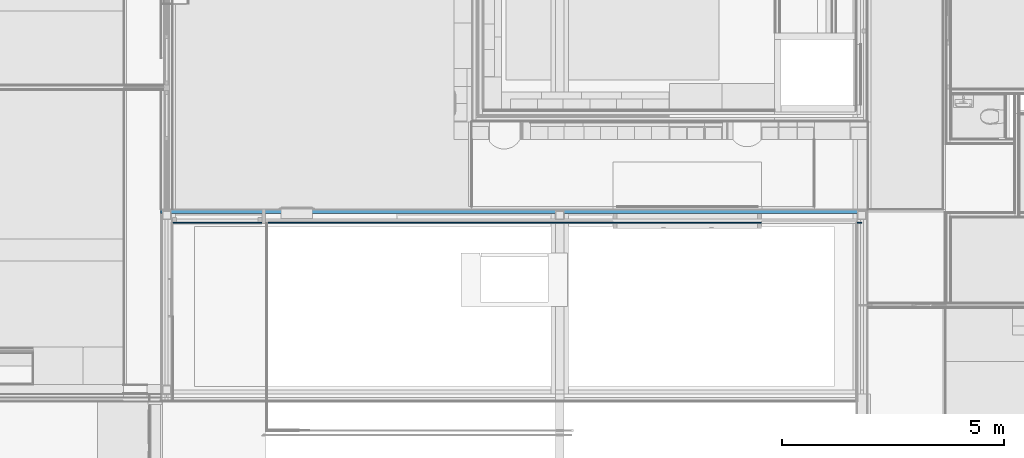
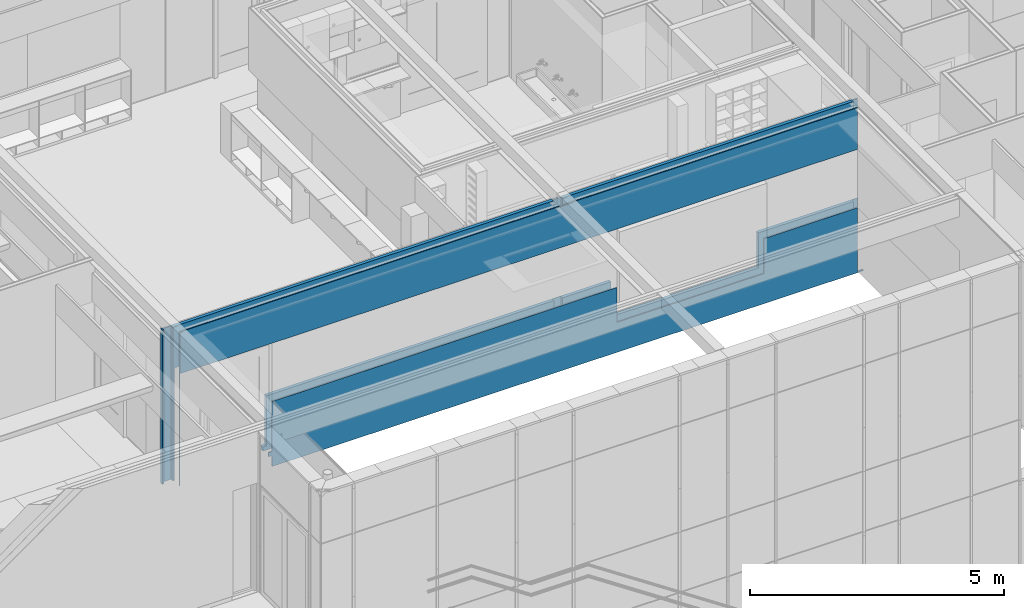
# One storey, part 68 of 137: 3 building element parts, 4 openings, 1 element without a shape of its own.
"""IFC2X3 building model written with IfcOpenShell, lengths in millimetres."""

from ifc_helpers import new_model, entity, si_unit, converted_unit, derived_unit, money_unit, direction, frame, origin_with_axes, place, context, subcontext, project, spatial, faceted_brep, material, type_object, element, aggregate, save


model = new_model("IFC2X3")

# Units and contexts
model_context = context("Model", 3, precision=0.01, world=origin_with_axes(), true_north=direction((0.0, 1.0)))
body_context = subcontext(model_context, "Body", "Model", "MODEL_VIEW")
ifc_project = project(units=[si_unit("LENGTHUNIT", "METRE", prefix="MILLI"), si_unit("AREAUNIT", "SQUARE_METRE"), si_unit("VOLUMEUNIT", "CUBIC_METRE"), converted_unit("PLANEANGLEUNIT", "DEGREE", entity("IfcPlaneAngleMeasure", 0.0174532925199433), si_unit("PLANEANGLEUNIT", "RADIAN"), dimensions=[0, 0, 0, 0, 0, 0, 0]), money_unit("EUR"), converted_unit("TIMEUNIT", "Year", entity("IfcTimeMeasure", 31556926.0), si_unit("TIMEUNIT", "SECOND"), dimensions=[0, 0, 1, 0, 0, 0, 0]), si_unit("MASSUNIT", "GRAM", prefix="KILO"), si_unit("THERMODYNAMICTEMPERATUREUNIT", "DEGREE_CELSIUS"), si_unit("LUMINOUSINTENSITYUNIT", "LUMEN"), si_unit("ENERGYUNIT", "JOULE", prefix="MEGA"), derived_unit("THERMALCONDUCTANCEUNIT", [(si_unit("POWERUNIT", "WATT"), 1), (si_unit("LENGTHUNIT", "METRE"), -1), (si_unit("THERMODYNAMICTEMPERATUREUNIT", "KELVIN"), -1)]), derived_unit("SPECIFICHEATCAPACITYUNIT", [(si_unit("ENERGYUNIT", "JOULE"), 1), (si_unit("MASSUNIT", "GRAM", prefix="KILO"), -1), (si_unit("THERMODYNAMICTEMPERATUREUNIT", "KELVIN"), -1)]), derived_unit("MASSDENSITYUNIT", [(si_unit("MASSUNIT", "GRAM", prefix="KILO"), 1), (si_unit("VOLUMEUNIT", "CUBIC_METRE"), -1)])], contexts=[model_context])

# Site, building, storey
site_placement = place(None, origin_with_axes())
site = spatial("IfcSite", under=ifc_project, at=site_placement, Name="Site", CompositionType="ELEMENT")
building_placement = place(site_placement, origin_with_axes())
building = spatial("IfcBuilding", under=site, at=building_placement, Name="Naam gebouw", CompositionType="ELEMENT")
storey_placement = place(building_placement, frame((0.0, 0.0, 3960.0), z_axis=(0.0, 0.0, 1.0), x_axis=(1.0, 0.0, 0.0)))
storey = spatial("IfcBuildingStorey", under=building, at=storey_placement, Name="1e verdieping", CompositionType="ELEMENT", Elevation=3960.0)

# Proxy, openings, building element parts
building_element_proxy_type = type_object("IfcBuildingElementProxyType", Name="22 Metal stud 325 325", PredefinedType="NOTDEFINED")
proxy_placement = place(storey_placement, frame((24499.99903999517, 10620.00011055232, -360.0000000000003), z_axis=(0.0, 0.0, 1.0), x_axis=(-1.0, 0.0, 0.0)))
proxy = element("IfcBuildingElementProxy", 1, at=proxy_placement, inside=storey, type_object=building_element_proxy_type, Name="_Wand-x")
opening_1_placement = place(proxy_placement, frame((9512.476531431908, 0.0, 1560.0), z_axis=(0.0, 0.0, 1.0), x_axis=(1.0, 0.0, 0.0)))
element("IfcOpeningElement", 2, at=opening_1_placement, cuts=proxy, Name="_A.02", context=body_context, shape_type="Brep", body=[
    faceted_brep([(-3912.476916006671, -326.0000000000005, 1400.0), (-3912.476916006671, -326.0000000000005, 0.0), (3912.476916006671, -326.0000000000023, 0.0), (3912.476916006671, -326.0000000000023, 1400.0), (-3912.476916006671, 1.000000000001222, 1400.0), (-3912.476916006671, 1.000000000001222, 0.0), (3912.476916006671, 0.9999999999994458, 0.0), (3912.476916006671, 0.9999999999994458, 1400.0)], [[[0, 1, 2, 3]], [[4, 5, 1, 0]], [[5, 6, 2, 1]], [[6, 7, 3, 2]], [[7, 4, 0, 3]], [[6, 5, 4, 7]]]),
])
opening_2_placement = place(proxy_placement, frame((1194.999807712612, 0.0, 1560.0), z_axis=(0.0, 0.0, 1.0), x_axis=(1.0, 0.0, 0.0)))
element("IfcOpeningElement", 3, at=opening_2_placement, cuts=proxy, Name="_A.01a", context=body_context, shape_type="Brep", body=[
    faceted_brep([(-1329.999807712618, -325.9999999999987, 1400.0), (-1329.999807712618, -325.9999999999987, 0.0), (1059.999807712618, -325.9999999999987, 0.0), (1059.999807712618, -325.9999999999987, 1400.0), (-1329.999807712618, -325.0000000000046, 0.0), (-1329.999807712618, -325.0000000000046, 1400.0), (-1059.169038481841, 0.9999999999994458, 0.0), (1059.999807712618, 0.9999999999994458, 0.0), (1059.999807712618, 0.9999999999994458, 1400.0), (-1059.169038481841, 0.9999999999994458, 1400.0)], [[[0, 1, 2, 3]], [[4, 1, 0, 5]], [[6, 7, 2, 1, 4]], [[7, 8, 3, 2]], [[8, 9, 5, 0, 3]], [[4, 5, 9, 6]], [[7, 6, 9, 8]]]),
])
opening_3_placement = place(proxy_placement, frame((3927.499615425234, 0.0, 720.0000000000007), z_axis=(0.0, 0.0, 1.0), x_axis=(1.0, 0.0, 0.0)))
element("IfcOpeningElement", 4, at=opening_3_placement, cuts=proxy, Name="_A.04", context=body_context, shape_type="Brep", body=[
    faceted_brep([(-1672.500000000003, -325.9999999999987, 2240.0), (-1672.500000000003, -325.9999999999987, 0.0), (1672.500000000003, -325.9999999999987, 0.0), (1672.500000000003, -325.9999999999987, 2240.0), (-1672.500000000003, 0.9999999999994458, 2240.0), (-1672.500000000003, 0.9999999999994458, 0.0), (1672.500000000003, 0.9999999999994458, 0.0), (1672.500000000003, 0.9999999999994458, 2240.0)], [[[0, 1, 2, 3]], [[4, 5, 1, 0]], [[5, 6, 2, 1]], [[6, 7, 3, 2]], [[7, 4, 0, 3]], [[6, 5, 4, 7]]]),
])
opening_4_placement = place(proxy_placement, frame((14509.95344743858, 0.0, 360.0000000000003), z_axis=(0.0, 0.0, 1.0), x_axis=(1.0, 0.0, 0.0)))
element("IfcOpeningElement", 5, at=opening_4_placement, cuts=proxy, Name="_03.05", context=body_context, shape_type="Brep", body=[
    faceted_brep([(-1005.000000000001, -326.0000000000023, 2600.0), (-1005.000000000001, -326.0000000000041, -100.0000000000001), (1005.000000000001, -326.0000000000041, -100.0000000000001), (1005.000000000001, -326.0000000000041, 2600.0), (-1005.000000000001, 1.000000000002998, 2600.0), (-1005.000000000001, 1.000000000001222, -100.0000000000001), (1005.000000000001, 1.000000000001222, -100.0000000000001), (1005.000000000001, 1.000000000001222, 2600.0)], [[[0, 1, 2, 3]], [[4, 5, 1, 0]], [[5, 6, 2, 1]], [[6, 7, 3, 2]], [[7, 4, 0, 3]], [[6, 5, 4, 7]]]),
])
ifc_material_1 = material(Name="Gipsplaat")
building_element_part_1_placement = place(proxy_placement, origin_with_axes())
building_element_part_1 = element("IfcBuildingElementPart", 6, at=building_element_part_1_placement, material=ifc_material_1, Name="Gipsplaat", context=body_context, shape_type="Brep", body=[
    faceted_brep([(13504.95344743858, -12.50000000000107, 360.0000000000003), (13424.95344743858, -12.50000000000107, 360.0000000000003), (13424.95344743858, -12.50000000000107, 1560.0), (5599.999615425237, -12.50000000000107, 1560.0), (5599.999615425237, -12.50000000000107, 720.0000000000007), (2254.99961542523, -12.50000000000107, 720.0000000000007), (2254.99961542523, -12.50000000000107, 1560.0), (134.9999999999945, -12.50000000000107, 1560.0), (134.9999999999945, -12.50000000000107, 30.00000000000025), (100.9999999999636, -12.50000000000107, 30.00000000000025), (100.9999999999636, -12.49999999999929, 0.0), (13424.95344743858, -12.50000000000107, 0.0), (13424.95344743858, -12.50000000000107, 259.9999999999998), (13504.95344743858, -12.50000000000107, 260.0000000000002), (13504.95344743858, 0.0, 360.0000000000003), (13424.95344743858, 0.0, 360.0000000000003), (13424.95344743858, 0.0, 1560.0), (5599.999615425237, 0.0, 1560.0), (5599.999615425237, 0.0, 720.0000000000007), (2254.99961542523, 0.0, 720.0000000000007), (2254.99961542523, 1.966955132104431e-05, 1560.0), (135.0000163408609, 1.966955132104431e-05, 1560.0), (134.9999999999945, 0.0, 30.00000000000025), (100.9999999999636, 0.0, 30.00000000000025), (100.9999999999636, 0.0, 0.0), (13424.95344743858, 0.0, 0.0), (13424.95344743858, 0.0, 259.9999999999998), (13504.95344743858, 0.0, 260.0000000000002)], [[[0, 1, 2, 3, 4, 5, 6, 7, 8, 9, 10, 11, 12, 13]], [[1, 0, 14, 15]], [[16, 2, 1, 15]], [[2, 16, 17, 3]], [[18, 4, 3, 17]], [[19, 5, 4, 18]], [[19, 20, 6, 5]], [[20, 21, 7, 6]], [[8, 7, 21, 22]], [[9, 8, 22, 23]], [[9, 23, 24, 10]], [[24, 25, 11, 10]], [[12, 11, 25, 26]], [[12, 26, 27, 13]], [[14, 0, 13, 27]], [[15, 14, 27, 26, 25, 24, 23, 22, 21, 20, 19, 18, 17, 16]]]),
    faceted_brep([(13424.95344743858, 0.0, 2960.000000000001), (13424.95344743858, -12.50000000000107, 2960.000000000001), (2254.99961542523, -12.50000000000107, 2960.000000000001), (2254.99961542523, 1.966955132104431e-05, 2960.000000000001), (13504.95344743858, -12.50000000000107, 2960.000000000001), (13504.95344743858, 0.0, 2960.000000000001), (15514.95344743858, -12.50000000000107, 2960.000000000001), (15514.95344743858, -12.50000000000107, 260.0000000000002), (15514.99664850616, -12.50000000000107, 259.9999999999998), (15514.99664850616, -12.50000000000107, 3943.000002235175), (15449.99908606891, -12.50000000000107, 3943.000002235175), (15449.99908606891, -12.50000000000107, 3955.000002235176), (15514.99664850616, -12.50000000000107, 3955.000002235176), (15514.99664850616, -12.50000000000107, 3960.000000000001), (6900.999615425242, -12.50000000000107, 3960.000000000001), (6900.999615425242, -12.50000000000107, 3955.000029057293), (6999.999615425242, -12.50000000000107, 3955.000029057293), (6999.999615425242, -12.50000000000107, 3940.000029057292), (6599.999615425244, -12.50000000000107, 3940.000029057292), (6599.999615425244, -12.50000000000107, 3955.000029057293), (6698.999615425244, -12.50000000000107, 3955.000029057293), (6698.999615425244, -12.50000000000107, 3960.000000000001), (134.9999999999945, -12.49999999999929, 3960.000000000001), (134.9999999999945, -12.49999999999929, 3955.000029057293), (199.9999999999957, -12.50000000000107, 3955.000029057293), (199.9999999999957, -12.50000000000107, 3945.000029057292), (134.9999999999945, -12.49999999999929, 3945.000029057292), (134.9999999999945, -12.49999999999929, 2960.000000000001), (135.0000163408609, 1.966955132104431e-05, 2960.000000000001), (134.9999999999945, 0.0, 3945.000029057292), (199.9999999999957, 0.0, 3945.000029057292), (199.9999999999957, 0.0, 3955.000029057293), (134.9999999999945, 0.0, 3955.000029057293), (134.9999999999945, 0.0, 3960.000000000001), (6698.999615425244, 0.0, 3960.000000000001), (6698.999615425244, 0.0, 3955.000029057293), (6599.999615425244, 0.0, 3955.000029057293), (6599.999615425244, 0.0, 3940.000029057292), (6999.999615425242, 0.0, 3940.000029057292), (6999.999615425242, 0.0, 3955.000029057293), (6900.999615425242, 0.0, 3955.000029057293), (6900.999615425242, 0.0, 3960.000000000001), (15514.99664850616, 0.0, 3960.000000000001), (15514.99664850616, 0.0, 3955.000002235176), (15449.99909350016, 0.0, 3955.000002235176), (15449.99909350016, 0.0, 3943.000002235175), (15514.99664850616, 0.0, 3943.000002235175), (15514.99664850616, 0.0, 259.9999999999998), (15514.95344743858, 0.0, 260.0000000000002), (15514.95344743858, 0.0, 2960.000000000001)], [[[0, 1, 2, 3]], [[4, 1, 0, 5]], [[1, 4, 6, 7, 8, 9, 10, 11, 12, 13, 14, 15, 16, 17, 18, 19, 20, 21, 22, 23, 24, 25, 26, 27, 2]], [[3, 2, 27, 28]], [[5, 0, 3, 28, 29, 30, 31, 32, 33, 34, 35, 36, 37, 38, 39, 40, 41, 42, 43, 44, 45, 46, 47, 48, 49]], [[4, 5, 49, 6]], [[49, 48, 7, 6]], [[47, 8, 7, 48]], [[9, 8, 47, 46]], [[9, 46, 45, 10]], [[10, 45, 44, 11]], [[11, 44, 43, 12]], [[43, 42, 13, 12]], [[14, 13, 42, 41]], [[14, 41, 40, 15]], [[15, 40, 39, 16]], [[16, 39, 38, 17]], [[17, 38, 37, 18]], [[18, 37, 36, 19]], [[19, 36, 35, 20]], [[21, 20, 35, 34]], [[34, 33, 22, 21]], [[23, 22, 33, 32]], [[23, 32, 31, 24]], [[24, 31, 30, 25]], [[26, 25, 30, 29]], [[29, 28, 27, 26]]]),
    faceted_brep([(6894.999615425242, -12.50000000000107, 3960.000000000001), (6894.999615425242, 0.0, 3960.000000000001), (6704.999615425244, 0.0, 3960.000000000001), (6704.999615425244, -12.50000000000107, 3960.000000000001), (6894.999615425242, -12.50000000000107, 3955.000029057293), (6894.999615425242, 0.0, 3955.000029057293), (6704.999615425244, 0.0, 3955.000029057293), (6704.999615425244, -12.50000000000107, 3955.000029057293)], [[[0, 1, 2, 3]], [[1, 0, 4, 5]], [[6, 2, 1, 5]], [[7, 3, 2, 6]], [[4, 0, 3, 7]], [[4, 7, 6, 5]]]),
    faceted_brep([(94.99999999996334, -12.49999999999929, 0.0), (94.99999999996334, -12.50000000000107, 30.00000000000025), (0.0, -12.49999999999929, 30.00000000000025), (0.0, -12.49999999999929, 0.0), (94.99999999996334, 0.0, 30.00000000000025), (94.99999999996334, 0.0, 0.0), (0.0, 0.0, 30.00000000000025), (0.0, 0.0, 0.0)], [[[0, 1, 2, 3]], [[4, 1, 0, 5]], [[1, 4, 6, 2]], [[7, 3, 2, 6]], [[5, 0, 3, 7]], [[4, 5, 7, 6]]]),
])
building_element_part_2_placement = place(proxy_placement, origin_with_axes())
building_element_part_2 = element("IfcBuildingElementPart", 7, at=building_element_part_2_placement, material=ifc_material_1, Name="Gipsplaat", context=body_context, shape_type="Brep", body=[
    faceted_brep([(13504.95344743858, -25.00000000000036, 360.0000000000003), (13424.95344743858, -25.00000000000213, 360.0000000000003), (13424.95344743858, -25.00000000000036, 1560.0), (5599.999615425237, -25.00000000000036, 1560.0), (5599.999615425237, -25.00000000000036, 720.0000000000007), (2254.99961542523, -25.00000000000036, 720.0000000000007), (2254.99961542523, -25.00000000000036, 1560.0), (122.4999999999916, -25.00000000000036, 1560.0), (122.4999999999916, -25.00000000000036, 30.00000000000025), (100.9999999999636, -25.00000000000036, 30.00000000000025), (100.9999999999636, -25.00000000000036, 0.0), (13424.95344743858, -25.00000000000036, 0.0), (13424.95344743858, -25.00000000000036, 259.9999999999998), (13504.95344743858, -25.00000000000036, 260.0000000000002), (13504.95344743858, -12.50000000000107, 360.0000000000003), (13424.95344743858, -12.50000000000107, 360.0000000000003), (13424.95344743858, -12.50000000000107, 1560.0), (5599.999615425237, -12.50000000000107, 1560.0), (5599.999615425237, -12.50000000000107, 720.0000000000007), (2254.99961542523, -12.50000000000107, 720.0000000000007), (2254.99961542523, -12.50000000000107, 1560.0), (124.6153846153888, -12.50000000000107, 1560.0), (122.4999999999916, -15.04629629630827, 1560.0), (122.4999999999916, -12.50000000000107, 1560.0), (122.4999999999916, -12.50000000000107, 30.00000000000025), (100.9999999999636, -12.50000000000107, 30.00000000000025), (100.9999999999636, -12.49999999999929, 0.0), (13424.95344743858, -12.50000000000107, 0.0), (13424.95344743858, -12.50000000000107, 259.9999999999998), (13504.95344743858, -12.50000000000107, 260.0000000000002)], [[[0, 1, 2, 3, 4, 5, 6, 7, 8, 9, 10, 11, 12, 13]], [[1, 0, 14, 15]], [[16, 2, 1, 15]], [[2, 16, 17, 3]], [[18, 4, 3, 17]], [[19, 5, 4, 18]], [[19, 20, 6, 5]], [[21, 22, 7, 6, 20]], [[8, 7, 22, 23, 24]], [[9, 8, 24, 25]], [[9, 25, 26, 10]], [[26, 27, 11, 10]], [[12, 11, 27, 28]], [[12, 28, 29, 13]], [[14, 0, 13, 29]], [[15, 14, 29, 28, 27, 26, 25, 24, 23, 21, 20, 19, 18, 17, 16]], [[23, 22, 21]]]),
    faceted_brep([(13424.95344743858, -12.50000000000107, 2960.000000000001), (13424.95344743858, -25.00000000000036, 2960.000000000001), (2254.99961542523, -25.00000000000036, 2960.000000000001), (2254.99961542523, -12.50000000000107, 2960.000000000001), (13504.95344743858, -25.00000000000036, 2960.000000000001), (13504.95344743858, -12.50000000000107, 2960.000000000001), (15514.95344743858, -25.00000000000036, 2960.000000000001), (15514.95344743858, -25.00000000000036, 260.0000000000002), (15527.49664850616, -25.00000000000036, 259.9999999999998), (15527.49664850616, -25.00000000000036, 3943.000002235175), (15449.99907863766, -25.00000000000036, 3943.000002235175), (15449.99907863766, -25.00000000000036, 3955.000002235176), (15527.49664850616, -25.00000000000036, 3955.000002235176), (15527.49664850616, -25.00000000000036, 3960.000000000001), (6900.999615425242, -25.00000000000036, 3960.000000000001), (6900.999615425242, -25.00000000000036, 3955.000029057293), (6999.999615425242, -25.00000000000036, 3955.000029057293), (6999.999615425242, -25.00000000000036, 3940.000029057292), (6599.999615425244, -25.00000000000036, 3940.000029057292), (6599.999615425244, -25.00000000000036, 3955.000029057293), (6698.999615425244, -25.00000000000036, 3955.000029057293), (6698.999615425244, -25.00000000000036, 3960.000000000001), (122.4999999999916, -25.00000000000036, 3960.000000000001), (122.4999999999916, -25.00000000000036, 3955.000029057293), (199.9999999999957, -25.00000000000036, 3955.000029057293), (199.9999999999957, -25.00000000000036, 3945.000029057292), (122.4999999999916, -25.00000000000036, 3945.000029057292), (122.4999999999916, -25.00000000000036, 2960.000000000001), (122.4999999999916, -15.04629629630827, 2960.000000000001), (124.6153846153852, -12.50000000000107, 2960.000000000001), (122.4999999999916, -12.49999999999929, 2960.000000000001), (122.4999999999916, -12.49999999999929, 3945.000029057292), (199.9999999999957, -12.50000000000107, 3945.000029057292), (199.9999999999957, -12.50000000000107, 3955.000029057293), (122.4999999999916, -12.49999999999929, 3955.000029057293), (122.4999999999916, -12.49999999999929, 3960.000000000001), (6698.999615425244, -12.50000000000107, 3960.000000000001), (6698.999615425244, -12.50000000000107, 3955.000029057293), (6599.999615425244, -12.50000000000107, 3955.000029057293), (6599.999615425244, -12.50000000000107, 3940.000029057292), (6999.999615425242, -12.50000000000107, 3940.000029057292), (6999.999615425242, -12.50000000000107, 3955.000029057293), (6900.999615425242, -12.50000000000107, 3955.000029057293), (6900.999615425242, -12.50000000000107, 3960.000000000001), (15527.49664850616, -12.50000000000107, 3960.000000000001), (15527.49664850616, -12.50000000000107, 3955.000002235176), (15449.99908606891, -12.50000000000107, 3955.000002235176), (15449.99908606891, -12.50000000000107, 3943.000002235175), (15527.49664850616, -12.50000000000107, 3943.000002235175), (15527.49664850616, -12.50000000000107, 259.9999999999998), (15514.95344743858, -12.50000000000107, 260.0000000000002), (15514.95344743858, -12.50000000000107, 2960.000000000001)], [[[0, 1, 2, 3]], [[4, 1, 0, 5]], [[1, 4, 6, 7, 8, 9, 10, 11, 12, 13, 14, 15, 16, 17, 18, 19, 20, 21, 22, 23, 24, 25, 26, 27, 2]], [[3, 2, 27, 28, 29]], [[5, 0, 3, 29, 30, 31, 32, 33, 34, 35, 36, 37, 38, 39, 40, 41, 42, 43, 44, 45, 46, 47, 48, 49, 50, 51]], [[4, 5, 51, 6]], [[51, 50, 7, 6]], [[49, 8, 7, 50]], [[9, 8, 49, 48]], [[9, 48, 47, 10]], [[10, 47, 46, 11]], [[11, 46, 45, 12]], [[45, 44, 13, 12]], [[14, 13, 44, 43]], [[14, 43, 42, 15]], [[15, 42, 41, 16]], [[16, 41, 40, 17]], [[17, 40, 39, 18]], [[18, 39, 38, 19]], [[19, 38, 37, 20]], [[21, 20, 37, 36]], [[36, 35, 22, 21]], [[23, 22, 35, 34]], [[23, 34, 33, 24]], [[24, 33, 32, 25]], [[26, 25, 32, 31]], [[30, 28, 27, 26, 31]], [[30, 29, 28]]]),
    faceted_brep([(6894.999615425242, -25.00000000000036, 3960.000000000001), (6894.999615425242, -12.50000000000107, 3960.000000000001), (6704.999615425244, -12.50000000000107, 3960.000000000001), (6704.999615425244, -25.00000000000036, 3960.000000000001), (6894.999615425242, -25.00000000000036, 3955.000029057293), (6894.999615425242, -12.50000000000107, 3955.000029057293), (6704.999615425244, -12.50000000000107, 3955.000029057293), (6704.999615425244, -25.00000000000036, 3955.000029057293)], [[[0, 1, 2, 3]], [[1, 0, 4, 5]], [[6, 2, 1, 5]], [[7, 3, 2, 6]], [[4, 0, 3, 7]], [[4, 7, 6, 5]]]),
    faceted_brep([(94.99999999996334, -25.00000000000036, 0.0), (94.99999999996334, -25.00000000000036, 30.00000000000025), (0.0, -24.99999999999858, 30.00000000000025), (0.0, -25.00000000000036, 0.0), (94.99999999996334, -12.50000000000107, 30.00000000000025), (94.99999999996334, -12.49999999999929, 0.0), (0.0, -12.50000000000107, 30.00000000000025), (0.0, -12.49999999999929, 0.0)], [[[0, 1, 2, 3]], [[4, 1, 0, 5]], [[1, 4, 6, 2]], [[7, 3, 2, 6]], [[5, 0, 3, 7]], [[4, 5, 7, 6]]]),
])
ifc_material_2 = material(Name="ALG - LICHTE SCHEIDINGSWAND")
building_element_part_3_placement = place(proxy_placement, origin_with_axes())
building_element_part_3 = element("IfcBuildingElementPart", 8, at=building_element_part_3_placement, material=ifc_material_2, Name="ALG - LICHTE SCHEIDINGSWAND", context=body_context, shape_type="Brep", body=[
    faceted_brep([(13504.95344743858, -300.0000000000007, 360.0000000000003), (13424.95344743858, -300.0000000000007, 360.0000000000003), (13424.95344743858, -300.0000000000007, 1560.0), (5599.999615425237, -299.9999999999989, 1560.0), (5599.999615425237, -299.9999999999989, 720.0000000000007), (2254.99961542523, -299.9999999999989, 720.0000000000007), (2254.99961542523, -299.9999999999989, 1560.0), (-35.00000017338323, -299.9999999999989, 1560.0), (-35.00000002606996, -299.9999999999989, 260.0000022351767), (13504.95344743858, -300.0000000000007, 260.0000000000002), (13504.95344743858, -224.999997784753, 360.0000000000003), (13424.95344743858, -224.9999978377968, 360.0000000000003), (13424.95344743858, -224.9999984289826, 1560.0), (6899.99961542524, -224.9999978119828, 1560.0), (6899.99961542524, -290.0000000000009, 1560.0), (6699.999615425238, -290.0000000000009, 1560.0), (6699.999615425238, -224.999997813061, 1560.0), (5599.999615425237, -224.9999978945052, 1560.0), (5599.999615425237, -224.9999978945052, 720.0000000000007), (2254.99961542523, -224.9999978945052, 720.0000000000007), (2254.99961542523, -224.9999978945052, 1560.0), (99.99999999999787, -290.0000000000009, 1560.0), (-35.00000017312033, -290.0000000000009, 1560.0), (99.99999999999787, -224.9999981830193, 1560.0), (-35.00000002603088, -290.0000000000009, 260.0000000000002), (12949.99903999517, -290.0000000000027, 259.9999999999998), (12949.99903999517, -224.9999977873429, 260.0000003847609), (13504.95344743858, -224.9999977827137, 260.0000000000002), (99.99999999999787, -290.0000000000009, 260.0000000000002), (99.99999999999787, -224.9999978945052, 260.0000000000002), (6699.999615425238, -224.9999978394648, 260.0000000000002), (6699.999615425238, -290.0000000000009, 260.0000000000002), (6899.99961542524, -290.0000000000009, 260.0000000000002), (6899.99961542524, -224.9999978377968, 260.0000000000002), (12853.99903999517, -224.9999977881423, 260.000000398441), (12853.99903999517, -290.0000000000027, 259.9999999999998), (12861.99903999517, -290.0000000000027, 259.9999999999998), (12861.99903999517, -242.5000000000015, 259.9999999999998), (12941.99903999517, -242.5000000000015, 259.9999999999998), (12941.99903999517, -290.0000000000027, 259.9999999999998), (12949.99903999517, -224.9999977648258, 275.0000000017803), (12941.99903999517, -224.9999977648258, 275.0000000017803), (12941.99903999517, -224.9999977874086, 260.0000003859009), (12861.99903999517, -224.9999977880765, 260.0000003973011), (12861.99903999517, -224.9999977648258, 275.0000000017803), (12853.99903999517, -224.9999977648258, 275.0000000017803), (12949.99903999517, -290.0000000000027, 275.0000000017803), (12853.99903999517, -290.0000000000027, 275.0000000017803), (12861.99903999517, -290.0000000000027, 275.0000000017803), (12861.99903999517, -242.5000000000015, 275.0000000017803), (12941.99903999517, -242.5000000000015, 275.0000000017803), (12941.99903999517, -290.0000000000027, 275.0000000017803), (12861.99903999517, -237.5000000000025, 275.0000000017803), (12941.99903999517, -237.5000000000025, 275.0000000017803), (12941.99903999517, -237.5000000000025, 259.9999999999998), (12861.99903999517, -237.5000000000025, 259.9999999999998)], [[[0, 1, 2, 3, 4, 5, 6, 7, 8, 9]], [[1, 0, 10, 11]], [[12, 2, 1, 11]], [[2, 12, 13, 14, 15, 16, 17, 3]], [[18, 4, 3, 17]], [[19, 5, 4, 18]], [[19, 20, 6, 5]], [[21, 22, 7, 6, 20, 23]], [[8, 7, 22, 24]], [[25, 26, 27, 9, 8, 24, 28, 29, 30, 31, 32, 33, 34, 35, 36, 37, 38, 39]], [[10, 0, 9, 27]], [[11, 10, 27, 26, 40, 41, 42, 43, 44, 45, 34, 33, 13, 12]], [[14, 13, 33, 32]], [[15, 14, 32, 31]], [[16, 15, 31, 30]], [[29, 23, 20, 19, 18, 17, 16, 30]], [[24, 22, 21, 28]], [[28, 21, 23, 29]], [[25, 46, 40, 26]], [[34, 45, 47, 35]], [[35, 47, 48, 36]], [[36, 48, 49, 37]], [[37, 49, 50, 38]], [[38, 50, 51, 39]], [[39, 51, 46, 25]], [[44, 52, 53, 41, 40, 46, 51, 50, 49, 48, 47, 45]], [[42, 41, 53, 54]], [[43, 42, 54, 55]], [[55, 52, 44, 43]], [[54, 53, 52, 55]]]),
    faceted_brep([(13424.95344743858, -224.9999984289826, 2960.000000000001), (13424.95344743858, -299.9999999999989, 2960.000000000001), (2254.99961542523, -299.9999999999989, 2960.000000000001), (2254.99961542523, -224.9999978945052, 2960.000000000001), (6699.999615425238, -224.9999977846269, 2960.000000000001), (6699.999615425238, -290.0000000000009, 2960.000000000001), (6899.99961542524, -290.0000000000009, 2960.000000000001), (6899.99961542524, -224.9999977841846, 2960.000000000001), (13504.95344743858, -299.9999999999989, 2960.000000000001), (13504.95344743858, -224.9999978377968, 2960.000000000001), (15514.95344743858, -299.9999999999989, 2960.000000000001), (15514.95344743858, -300.0000000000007, 260.0000000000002), (15784.99664850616, -300.0000000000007, 259.9999999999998), (15784.99664850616, -300.0000000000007, 3943.000002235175), (15449.99891515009, -300.0000000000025, 3943.000002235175), (15449.99891515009, -300.0000000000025, 3955.000002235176), (15548.99891515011, -299.9999999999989, 3955.000002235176), (15548.99891515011, -300.0000000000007, 3960.000000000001), (6900.999615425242, -299.9999999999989, 3960.000000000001), (6900.999615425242, -299.9999999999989, 3955.000029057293), (6999.999615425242, -299.9999999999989, 3955.000029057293), (6999.999615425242, -299.9999999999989, 3935.000029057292), (6599.999615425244, -299.9999999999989, 3935.000029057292), (6599.999615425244, -299.9999999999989, 3955.000029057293), (6698.999615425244, -299.9999999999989, 3955.000029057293), (6698.999615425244, -299.9999999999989, 3960.000000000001), (100.9999999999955, -299.9999999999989, 3960.000000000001), (100.9999999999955, -299.9999999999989, 3955.000029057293), (199.9999999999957, -299.9999999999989, 3955.000029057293), (199.9999999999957, -299.9999999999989, 3945.000029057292), (-35.00000044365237, -299.9999999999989, 3945.000029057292), (-35.00000033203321, -299.9999999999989, 2960.000000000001), (-35.00000033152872, -290.0000000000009, 2960.000000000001), (99.99999999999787, -290.0000000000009, 2960.000000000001), (99.99999999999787, -224.9999984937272, 2960.000000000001), (99.99999999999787, -224.9999987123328, 3945.000029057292), (199.9999999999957, -224.9999977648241, 3945.000029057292), (199.9999999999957, -224.9999977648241, 3955.000029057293), (100.9999999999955, -224.9999977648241, 3955.000029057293), (100.9999999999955, -224.9999999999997, 3960.000000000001), (6698.999615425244, -224.9999999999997, 3960.000000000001), (6698.999615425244, -224.9999977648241, 3955.000029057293), (6599.999615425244, -224.9999977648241, 3955.000029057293), (6599.999615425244, -224.9999977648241, 3935.000029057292), (6699.999615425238, -224.9999977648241, 3935.000029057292), (6699.999615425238, -290.0000000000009, 3935.000029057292), (6899.99961542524, -290.0000000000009, 3935.000029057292), (6899.99961542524, -224.9999977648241, 3935.000029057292), (6999.999615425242, -224.9999977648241, 3935.000029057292), (6999.999615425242, -224.9999977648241, 3955.000029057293), (6900.999615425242, -224.9999977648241, 3955.000029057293), (6900.999615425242, -224.9999999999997, 3960.000000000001), (15548.99895973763, -225.0000000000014, 3960.000000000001), (15548.99895973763, -224.9999977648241, 3955.000002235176), (15449.99895973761, -224.9999977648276, 3955.000002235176), (15449.99895973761, -224.9999977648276, 3943.000002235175), (15549.99903999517, -224.9999984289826, 3943.000002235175), (15549.99903999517, -224.9999977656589, 260.0000000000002), (15514.95344743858, -224.999997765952, 260.0000000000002), (15514.95344743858, -224.9999978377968, 2960.000000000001), (15784.99664850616, -224.9999977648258, 259.9999999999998), (15549.99903999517, -290.0000000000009, 260.0000000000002), (15749.99903999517, -290.0000000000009, 260.0000000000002), (15749.99903999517, -224.9999977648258, 260.0000000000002), (15784.99664850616, -224.9999999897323, 3943.000002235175), (15749.99903999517, -224.9999997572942, 3943.000002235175), (15749.99903999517, -290.0000000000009, 3943.000002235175), (15549.99903999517, -290.0000000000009, 3943.000002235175), (99.99999999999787, -290.0000000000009, 3945.000029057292), (-35.00000044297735, -290.0000000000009, 3945.000029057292)], [[[0, 1, 2, 3, 4, 5, 6, 7]], [[8, 1, 0, 9]], [[1, 8, 10, 11, 12, 13, 14, 15, 16, 17, 18, 19, 20, 21, 22, 23, 24, 25, 26, 27, 28, 29, 30, 31, 2]], [[3, 2, 31, 32, 33, 34]], [[4, 3, 34, 35, 36, 37, 38, 39, 40, 41, 42, 43, 44]], [[5, 4, 44, 45]], [[6, 5, 45, 46]], [[7, 6, 46, 47]], [[9, 0, 7, 47, 48, 49, 50, 51, 52, 53, 54, 55, 56, 57, 58, 59]], [[8, 9, 59, 10]], [[59, 58, 11, 10]], [[60, 12, 11, 58, 57, 61, 62, 63]], [[64, 13, 12, 60]], [[14, 13, 64, 65, 66, 67, 56, 55]], [[15, 14, 55, 54]], [[16, 15, 54, 53]], [[52, 17, 16, 53]], [[17, 52, 51, 18]], [[19, 18, 51, 50]], [[20, 19, 50, 49]], [[21, 20, 49, 48]], [[22, 21, 48, 47, 46, 45, 44, 43]], [[23, 22, 43, 42]], [[24, 23, 42, 41]], [[40, 25, 24, 41]], [[39, 26, 25, 40]], [[27, 26, 39, 38]], [[28, 27, 38, 37]], [[29, 28, 37, 36]], [[68, 69, 30, 29, 36, 35]], [[69, 32, 31, 30]], [[68, 33, 32, 69]], [[35, 34, 33, 68]], [[67, 61, 57, 56]], [[66, 62, 61, 67]], [[65, 63, 62, 66]], [[65, 64, 60, 63]]]),
    faceted_brep([(6894.999615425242, -290.0000000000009, 3959.999999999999), (6704.999615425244, -290.0000000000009, 3959.999999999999), (6704.999615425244, -299.9999999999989, 3960.000000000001), (6894.999615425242, -299.9999999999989, 3960.000000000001), (6704.999615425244, -290.0000000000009, 3955.000029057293), (6894.999615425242, -290.0000000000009, 3955.000029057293), (6704.999615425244, -299.9999999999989, 3955.000029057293), (6894.999615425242, -299.9999999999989, 3955.000029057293)], [[[0, 1, 2, 3]], [[4, 1, 0, 5]], [[1, 4, 6, 2]], [[6, 7, 3, 2]], [[5, 0, 3, 7]], [[4, 5, 7, 6]]]),
    faceted_brep([(94.99999999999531, -290.0000000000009, 3959.999999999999), (-35.00000044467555, -290.0000000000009, 3959.999999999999), (-35.00000044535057, -299.9999999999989, 3960.000000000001), (94.99999999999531, -299.9999999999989, 3960.000000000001), (-35.00000044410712, -290.0000000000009, 3955.000029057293), (94.99999999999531, -290.0000000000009, 3955.000029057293), (-35.00000044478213, -299.9999999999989, 3955.000029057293), (94.99999999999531, -299.9999999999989, 3955.000029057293)], [[[0, 1, 2, 3]], [[4, 1, 0, 5]], [[1, 4, 6, 2]], [[6, 7, 3, 2]], [[5, 0, 3, 7]], [[4, 5, 7, 6]]]),
    faceted_brep([(15744.99892109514, -290.0000000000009, 3959.999999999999), (15554.99892109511, -290.0000000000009, 3959.999999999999), (15554.99891515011, -300.0000000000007, 3960.000000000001), (15744.99891515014, -300.0000000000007, 3960.000000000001), (15554.99892109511, -290.0000000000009, 3955.000002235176), (15744.99892109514, -290.0000000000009, 3955.000002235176), (15554.99891515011, -299.9999999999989, 3955.000002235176), (15744.99891515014, -299.9999999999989, 3955.000002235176)], [[[0, 1, 2, 3]], [[4, 1, 0, 5]], [[1, 4, 6, 2]], [[6, 7, 3, 2]], [[5, 0, 3, 7]], [[4, 5, 7, 6]]]),
    faceted_brep([(15750.99895973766, -225.0000000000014, 3960.000000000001), (15750.99891515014, -300.0000000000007, 3960.000000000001), (15784.99664850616, -300.0000000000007, 3960.000000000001), (15784.99664850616, -225.0000000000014, 3960.000000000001), (15750.99891515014, -299.9999999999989, 3955.000002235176), (15750.99895973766, -224.9999977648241, 3955.000002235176), (15784.99664850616, -300.0000000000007, 3955.000002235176), (15784.99664850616, -224.9999999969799, 3955.000002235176)], [[[0, 1, 2, 3]], [[4, 1, 0, 5]], [[4, 6, 2, 1]], [[6, 7, 3, 2]], [[5, 0, 3, 7]], [[6, 4, 5, 7]]]),
])
aggregate(proxy, [building_element_part_1, building_element_part_2, building_element_part_3])

save(model, "model.ifc")
